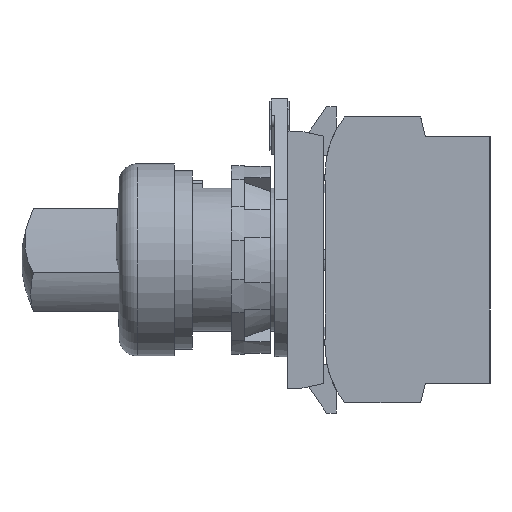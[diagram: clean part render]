
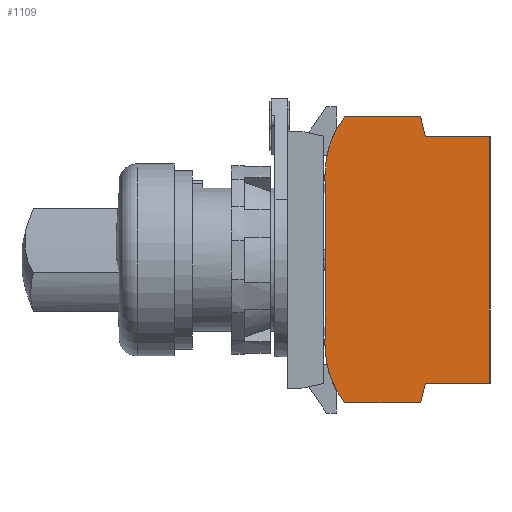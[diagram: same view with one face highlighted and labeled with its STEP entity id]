
A CAD part, left-side view. The second image highlights one B-rep face of the part: STEP entity #1109.
In plain terms, the highlighted planar face has unit normal (-1, 0, 0) as drawn and (0, 0, -1) by its records, which use the part's own axes.
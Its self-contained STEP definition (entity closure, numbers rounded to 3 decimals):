
#133 = DIRECTION ( 'NONE',  ( 0., 1., 0. ) ) ;
#440 = ORIENTED_EDGE ( 'NONE', *, *, #14457, .F. ) ;
#469 = VERTEX_POINT ( 'NONE', #7141 ) ;
#673 = LINE ( 'NONE', #11924, #4476 ) ;
#738 = VERTEX_POINT ( 'NONE', #6198 ) ;
#789 = VERTEX_POINT ( 'NONE', #13415 ) ;
#1029 = CIRCLE ( 'NONE', #15745, 14.407 ) ;
#1101 = DIRECTION ( 'NONE',  ( 0., 0., -1. ) ) ;
#1109 = ADVANCED_FACE ( 'NONE', ( #4848 ), #9656, .T. ) ;
#1287 = CARTESIAN_POINT ( 'NONE',  ( -13.2, -14.407, -4.95 ) ) ;
#1414 = VERTEX_POINT ( 'NONE', #15565 ) ;
#1568 = EDGE_CURVE ( 'NONE', #15474, #1414, #1029, .T. ) ;
#1607 = ORIENTED_EDGE ( 'NONE', *, *, #14718, .F. ) ;
#1619 = VECTOR ( 'NONE', #16348, 1000. ) ;
#1681 = CARTESIAN_POINT ( 'NONE',  ( -22., -3., -4.95 ) ) ;
#1944 = DIRECTION ( 'NONE',  ( 0., 1., 0. ) ) ;
#2039 = DIRECTION ( 'NONE',  ( 0.97, 0.242, 0. ) ) ;
#2091 = VECTOR ( 'NONE', #17577, 1000. ) ;
#2280 = ORIENTED_EDGE ( 'NONE', *, *, #15526, .F. ) ;
#2313 = DIRECTION ( 'NONE',  ( 0.97, -0.242, 0. ) ) ;
#2491 = LINE ( 'NONE', #12426, #13859 ) ;
#2590 = DIRECTION ( 'NONE',  ( 0., -1., 0. ) ) ;
#2728 = DIRECTION ( 'NONE',  ( 1., 0., 0. ) ) ;
#2923 = EDGE_CURVE ( 'NONE', #12997, #15474, #10227, .T. ) ;
#3072 = LINE ( 'NONE', #10869, #17334 ) ;
#3165 = CARTESIAN_POINT ( 'NONE',  ( 13.2, 0.1, -4.95 ) ) ;
#3199 = VERTEX_POINT ( 'NONE', #15920 ) ;
#3638 = EDGE_CURVE ( 'NONE', #469, #17990, #3072, .T. ) ;
#3787 = ORIENTED_EDGE ( 'NONE', *, *, #1568, .F. ) ;
#3858 = DIRECTION ( 'NONE',  ( 0., 1., 0. ) ) ;
#3910 = DIRECTION ( 'NONE',  ( 0., -1., 0. ) ) ;
#4282 = CARTESIAN_POINT ( 'NONE',  ( -12.2, 0., -4.95 ) ) ;
#4476 = VECTOR ( 'NONE', #1944, 1000. ) ;
#4605 = DIRECTION ( 'NONE',  ( -1., 0., 0. ) ) ;
#4673 = CARTESIAN_POINT ( 'NONE',  ( 12.2, 0.1, -4.95 ) ) ;
#4848 = FACE_OUTER_BOUND ( 'NONE', #16874, .T. ) ;
#4933 = CARTESIAN_POINT ( 'NONE',  ( 22., -14.7, -4.95 ) ) ;
#5287 = CARTESIAN_POINT ( 'NONE',  ( 12.2, 0., -4.95 ) ) ;
#5386 = VECTOR ( 'NONE', #2590, 1000. ) ;
#5588 = AXIS2_PLACEMENT_3D ( 'NONE', #13884, #1101, #11107 ) ;
#5623 = VERTEX_POINT ( 'NONE', #5287 ) ;
#5740 = EDGE_CURVE ( 'NONE', #16252, #17097, #15908, .T. ) ;
#6122 = EDGE_CURVE ( 'NONE', #17097, #469, #17232, .T. ) ;
#6167 = LINE ( 'NONE', #13716, #17089 ) ;
#6198 = CARTESIAN_POINT ( 'NONE',  ( 13.2, 0.1, -4.95 ) ) ;
#6251 = AXIS2_PLACEMENT_3D ( 'NONE', #1287, #11279, #2728 ) ;
#6256 = DIRECTION ( 'NONE',  ( 0., -1., 0. ) ) ;
#6331 = ORIENTED_EDGE ( 'NONE', *, *, #6122, .F. ) ;
#6646 = CARTESIAN_POINT ( 'NONE',  ( 22., -3., -4.95 ) ) ;
#7003 = EDGE_CURVE ( 'NONE', #12904, #5623, #16301, .T. ) ;
#7141 = CARTESIAN_POINT ( 'NONE',  ( -22., -14.7, -4.95 ) ) ;
#7265 = VECTOR ( 'NONE', #17068, 1000. ) ;
#7506 = LINE ( 'NONE', #14407, #18000 ) ;
#7580 = VECTOR ( 'NONE', #2039, 1000. ) ;
#7609 = CARTESIAN_POINT ( 'NONE',  ( -19., -25.4, -4.95 ) ) ;
#7929 = ORIENTED_EDGE ( 'NONE', *, *, #7003, .F. ) ;
#7969 = CARTESIAN_POINT ( 'NONE',  ( 13.2, -14.407, -4.95 ) ) ;
#7993 = CARTESIAN_POINT ( 'NONE',  ( 12.2, 0., -4.95 ) ) ;
#8520 = EDGE_CURVE ( 'NONE', #17990, #11441, #14978, .T. ) ;
#8689 = EDGE_CURVE ( 'NONE', #8713, #16252, #2491, .T. ) ;
#8713 = VERTEX_POINT ( 'NONE', #16715 ) ;
#8917 = CARTESIAN_POINT ( 'NONE',  ( 22., -3., -4.95 ) ) ;
#9085 = EDGE_CURVE ( 'NONE', #789, #15907, #673, .T. ) ;
#9403 = DIRECTION ( 'NONE',  ( -1., 0., 0. ) ) ;
#9635 = CARTESIAN_POINT ( 'NONE',  ( -13.2, 0., -4.95 ) ) ;
#9656 = PLANE ( 'NONE',  #5588 ) ;
#9696 = CARTESIAN_POINT ( 'NONE',  ( -19., -25.4, -4.95 ) ) ;
#9967 = EDGE_CURVE ( 'NONE', #15907, #12997, #14260, .T. ) ;
#10111 = ORIENTED_EDGE ( 'NONE', *, *, #5740, .F. ) ;
#10227 = LINE ( 'NONE', #6646, #13122 ) ;
#10301 = VECTOR ( 'NONE', #6256, 1000. ) ;
#10848 = VECTOR ( 'NONE', #4605, 1000. ) ;
#10869 = CARTESIAN_POINT ( 'NONE',  ( -22., -14.7, -4.95 ) ) ;
#10913 = DIRECTION ( 'NONE',  ( -1., 0., 0. ) ) ;
#10975 = ORIENTED_EDGE ( 'NONE', *, *, #2923, .F. ) ;
#11107 = DIRECTION ( 'NONE',  ( -1., 0., 0. ) ) ;
#11279 = DIRECTION ( 'NONE',  ( 0., 0., 1. ) ) ;
#11441 = VERTEX_POINT ( 'NONE', #9696 ) ;
#11484 = ORIENTED_EDGE ( 'NONE', *, *, #3638, .F. ) ;
#11648 = EDGE_CURVE ( 'NONE', #1414, #738, #7506, .T. ) ;
#11924 = CARTESIAN_POINT ( 'NONE',  ( 19., -15.448, -4.95 ) ) ;
#12054 = CARTESIAN_POINT ( 'NONE',  ( -22., -3., -4.95 ) ) ;
#12426 = CARTESIAN_POINT ( 'NONE',  ( -13.2, 0., -4.95 ) ) ;
#12904 = VERTEX_POINT ( 'NONE', #4673 ) ;
#12997 = VERTEX_POINT ( 'NONE', #4933 ) ;
#13122 = VECTOR ( 'NONE', #3858, 1000. ) ;
#13404 = CARTESIAN_POINT ( 'NONE',  ( -19., -15.448, -4.95 ) ) ;
#13414 = CARTESIAN_POINT ( 'NONE',  ( -19., -15.448, -4.95 ) ) ;
#13415 = CARTESIAN_POINT ( 'NONE',  ( 19., -25.4, -4.95 ) ) ;
#13716 = CARTESIAN_POINT ( 'NONE',  ( -12.2, 0., -4.95 ) ) ;
#13859 = VECTOR ( 'NONE', #3910, 1000. ) ;
#13884 = CARTESIAN_POINT ( 'NONE',  ( 13.2, -14.407, -4.95 ) ) ;
#13913 = ORIENTED_EDGE ( 'NONE', *, *, #9085, .F. ) ;
#14070 = EDGE_CURVE ( 'NONE', #5623, #15396, #6167, .T. ) ;
#14096 = ORIENTED_EDGE ( 'NONE', *, *, #18418, .F. ) ;
#14260 = LINE ( 'NONE', #16247, #7580 ) ;
#14396 = CARTESIAN_POINT ( 'NONE',  ( -13.2, 0.1, -4.95 ) ) ;
#14407 = CARTESIAN_POINT ( 'NONE',  ( 13.2, 0., -4.95 ) ) ;
#14444 = DIRECTION ( 'NONE',  ( -1., 0., 0. ) ) ;
#14457 = EDGE_CURVE ( 'NONE', #738, #12904, #18434, .T. ) ;
#14571 = ORIENTED_EDGE ( 'NONE', *, *, #8520, .F. ) ;
#14718 = EDGE_CURVE ( 'NONE', #15396, #3199, #17739, .T. ) ;
#14915 = LINE ( 'NONE', #14396, #17830 ) ;
#14978 = LINE ( 'NONE', #13414, #10301 ) ;
#15396 = VERTEX_POINT ( 'NONE', #17278 ) ;
#15474 = VERTEX_POINT ( 'NONE', #8917 ) ;
#15526 = EDGE_CURVE ( 'NONE', #11441, #789, #17250, .T. ) ;
#15565 = CARTESIAN_POINT ( 'NONE',  ( 13.2, 0., -4.95 ) ) ;
#15745 = AXIS2_PLACEMENT_3D ( 'NONE', #7969, #17944, #9403 ) ;
#15907 = VERTEX_POINT ( 'NONE', #16952 ) ;
#15908 = CIRCLE ( 'NONE', #6251, 14.407 ) ;
#15920 = CARTESIAN_POINT ( 'NONE',  ( -12.2, 0.1, -4.95 ) ) ;
#16038 = ORIENTED_EDGE ( 'NONE', *, *, #9967, .F. ) ;
#16247 = CARTESIAN_POINT ( 'NONE',  ( 19., -15.448, -4.95 ) ) ;
#16252 = VERTEX_POINT ( 'NONE', #9635 ) ;
#16301 = LINE ( 'NONE', #7993, #5386 ) ;
#16344 = ORIENTED_EDGE ( 'NONE', *, *, #8689, .F. ) ;
#16348 = DIRECTION ( 'NONE',  ( 0., -1., 0. ) ) ;
#16715 = CARTESIAN_POINT ( 'NONE',  ( -13.2, 0.1, -4.95 ) ) ;
#16781 = ORIENTED_EDGE ( 'NONE', *, *, #11648, .F. ) ;
#16874 = EDGE_LOOP ( 'NONE', ( #3787, #10975, #16038, #13913, #2280, #14571, #11484, #6331, #10111, #16344, #14096, #1607, #18410, #7929, #440, #16781 ) ) ;
#16952 = CARTESIAN_POINT ( 'NONE',  ( 19., -15.448, -4.95 ) ) ;
#17068 = DIRECTION ( 'NONE',  ( 0., 1., 0. ) ) ;
#17089 = VECTOR ( 'NONE', #10913, 1000. ) ;
#17097 = VERTEX_POINT ( 'NONE', #1681 ) ;
#17232 = LINE ( 'NONE', #12054, #1619 ) ;
#17250 = LINE ( 'NONE', #7609, #2091 ) ;
#17278 = CARTESIAN_POINT ( 'NONE',  ( -12.2, 0., -4.95 ) ) ;
#17334 = VECTOR ( 'NONE', #2313, 1000. ) ;
#17577 = DIRECTION ( 'NONE',  ( 1., 0., 0. ) ) ;
#17739 = LINE ( 'NONE', #4282, #7265 ) ;
#17830 = VECTOR ( 'NONE', #14444, 1000. ) ;
#17944 = DIRECTION ( 'NONE',  ( 0., 0., 1. ) ) ;
#17990 = VERTEX_POINT ( 'NONE', #13404 ) ;
#18000 = VECTOR ( 'NONE', #133, 1000. ) ;
#18410 = ORIENTED_EDGE ( 'NONE', *, *, #14070, .F. ) ;
#18418 = EDGE_CURVE ( 'NONE', #3199, #8713, #14915, .T. ) ;
#18434 = LINE ( 'NONE', #3165, #10848 ) ;
